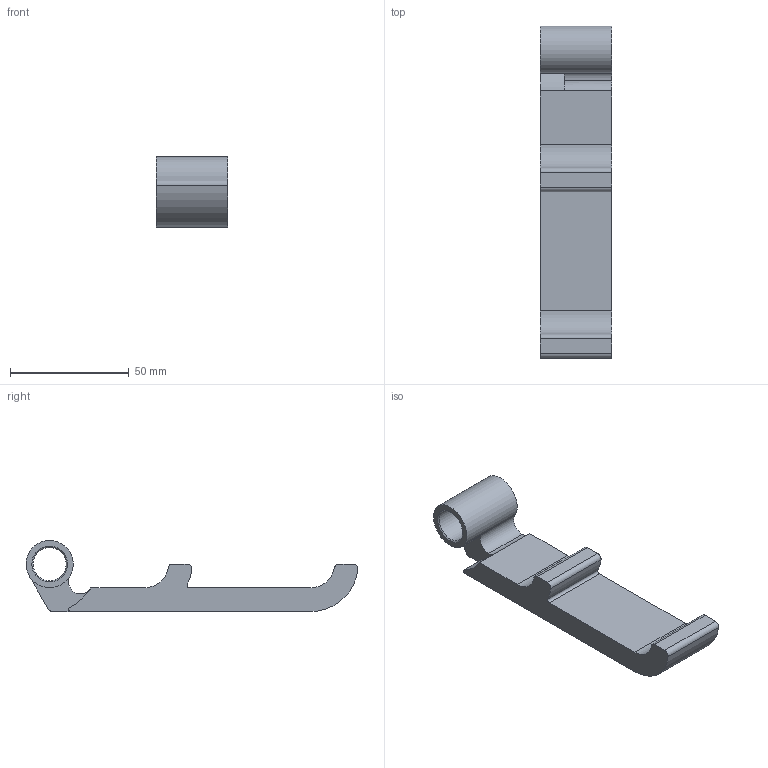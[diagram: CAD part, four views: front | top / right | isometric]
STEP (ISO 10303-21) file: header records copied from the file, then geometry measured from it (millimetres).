
FILE_DESCRIPTION(('HOOPS Exchange Step'),'2;1');
FILE_NAME('/private/var/mobile/Containers/Data/Application/E34E9B9D-13F5-4398-A6D4-3D2E6F602CF2/tmp/export/temp_export','2023-02-19T17:36:10-06:00',('mobile'),('Shapr3D Limited'),'HOOPS Exchange 2022.2','Shapr3D','Authorized');
FILE_SCHEMA( ('AUTOMOTIVE_DESIGN { 1 0 10303 214 1 1 1 1 }') );
Length unit declared in the file: millimetre
Products named in the file (1): Foot V2 Locking
Bounding box: 30 x 139.84 x 29.95 mm (x, y, z)
Volume: 47357 mm3; surface area: 14952.3 mm2
Topology: 1 solids, 1 shells, 31 faces, 86 edges, 57 vertices
Faces by surface type: cylinder 18, plane 11, cone 2
Full cylindrical faces by diameter (mm): 14 x1
Entity records: 1042 total; most frequent: DIRECTION 192, CARTESIAN_POINT 175, ORIENTED_EDGE 172, EDGE_CURVE 86, AXIS2_PLACEMENT_3D 74, VERTEX_POINT 57, VECTOR 44, LINE 44
